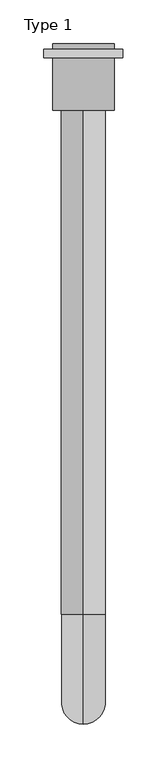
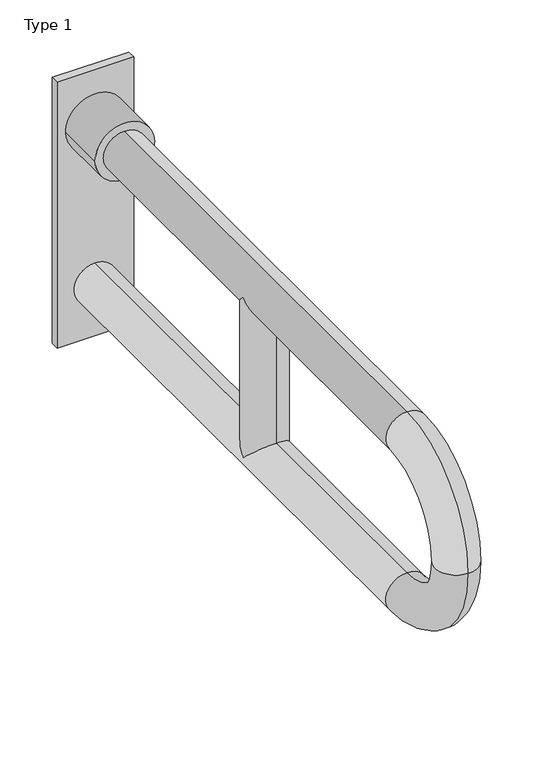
"""IFC4 building model written with IfcOpenShell, lengths in millimetres: proxy geometry, BIMHealth-Grab_Rail_Drop_Down-LOD2A-v1 : Type 1."""

from ifc_helpers import new_model, si_unit, point, frame, frame_2d, origin, place, context, project, spatial, polyline, circle_curve, ellipse_curve, trimmed, segment, composite_curve, outline, extrude, source, transform, mapped, element, save
from ifc_brep_helpers import plane_surface, cylinder_surface, revolved_surface, advanced_brep


def type_1_91922403(model_context):
    return source(origin(), model_context, "Body", "SolidModel", [
        advanced_brep(
        [(125.0, -135.7700007, 655.0), (125.0, -135.7700007, 705.0), (125.0, -70.0, 505.0), (125.0, -70.0, 455.0), (125.0, -710.0, 705.0), (125.0, -710.0, 655.0), (125.0, -445.0, 655.0), (150.0, -420.0, 680.0), (125.0, -395.0, 655.0), (100.0, -420.0, 680.0), (125.0, -835.0, 580.0), (125.0, -785.0, 580.0), (125.0, -710.0, 455.0), (125.0, -710.0, 505.0), (125.0, -395.0, 505.0), (150.0, -420.0, 480.0), (125.0, -445.0, 505.0), (100.0, -420.0, 480.0)],
        [
            (0, 1, circle_curve(frame((125.0, -135.7700007, 680.0), z_axis=(0.0, 1.0, 0.0), x_axis=(0.0, 0.0, 1.0)), 25.0)),
            (1, 0, circle_curve(frame((125.0, -135.7700007, 680.0), z_axis=(0.0, 1.0, 0.0), x_axis=(0.0, 0.0, 1.0)), 25.0)),
            (2, 3, circle_curve(frame((125.0, -70.0, 480.0), z_axis=(0.0, 1.0, 0.0), x_axis=(0.0, 0.0, -1.0)), 25.0)),
            (3, 2, circle_curve(frame((125.0, -70.0, 480.0), z_axis=(0.0, 1.0, 0.0), x_axis=(0.0, 0.0, -1.0)), 25.0)),
            (1, 4),
            (4, 5, circle_curve(frame((125.0, -710.0, 680.0), z_axis=(0.0, 1.0, 0.0), x_axis=(0.0, 0.0, 1.0)), 25.0)),
            (5, 6),
            (6, 7, ellipse_curve(frame((125.0, -420.0, 680.0), z_axis=(0.0, -0.7071067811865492, 0.7071067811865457), x_axis=(0.0, 0.7071067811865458, 0.7071067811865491)), 35.3553391, 25.0)),
            (7, 8, ellipse_curve(frame((125.0, -420.0, 680.0), z_axis=(0.0, 0.7071067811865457, 0.7071067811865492), x_axis=(0.0, 0.7071067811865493, -0.7071067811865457)), 35.3553391, 25.0)),
            (8, 0),
            (8, 9, ellipse_curve(frame((125.0, -420.0, 680.0), z_axis=(0.0, 0.7071067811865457, 0.7071067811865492), x_axis=(0.0, 0.7071067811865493, -0.7071067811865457)), 35.3553391, 25.0)),
            (9, 6, ellipse_curve(frame((125.0, -420.0, 680.0), z_axis=(0.0, -0.7071067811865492, 0.7071067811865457), x_axis=(0.0, 0.7071067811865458, 0.7071067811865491)), 35.3553391, 25.0)),
            (5, 4, circle_curve(frame((125.0, -710.0, 680.0), z_axis=(0.0, 1.0, 0.0), x_axis=(0.0, 0.0, 1.0)), 25.0)),
            (4, 10, circle_curve(frame((125.0, -710.0, 580.0), z_axis=(1.0, 0.0, 0.0), x_axis=(0.0, 0.0, 1.0)), 125.0)),
            (10, 11, circle_curve(frame((125.0, -810.0, 580.0), z_axis=(0.0, 0.0, 1.0), x_axis=(0.0, -1.0, 0.0)), 25.0)),
            (11, 5, circle_curve(frame((125.0, -710.0, 580.0), z_axis=(-1.0, 0.0, 0.0), x_axis=(0.0, 0.0, 1.0)), 75.0)),
            (11, 10, circle_curve(frame((125.0, -810.0, 580.0), z_axis=(0.0, 0.0, 1.0), x_axis=(0.0, -1.0, 0.0)), 25.0)),
            (10, 12, circle_curve(frame((125.0, -710.0, 580.0), z_axis=(1.0, 0.0, 0.0), x_axis=(0.0, -1.0, 0.0)), 125.0)),
            (12, 13, circle_curve(frame((125.0, -710.0, 480.0), z_axis=(0.0, -1.0, 0.0), x_axis=(0.0, 0.0, -1.0)), 25.0)),
            (13, 11, circle_curve(frame((125.0, -710.0, 580.0), z_axis=(-1.0, 0.0, 0.0), x_axis=(0.0, -1.0, 0.0)), 75.0)),
            (13, 12, circle_curve(frame((125.0, -710.0, 480.0), z_axis=(0.0, -1.0, 0.0), x_axis=(0.0, 0.0, -1.0)), 25.0)),
            (2, 14),
            (14, 15, ellipse_curve(frame((125.0, -420.0, 480.0), z_axis=(0.0, 0.7071067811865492, -0.7071067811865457), x_axis=(0.0, -0.7071067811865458, -0.7071067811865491)), 35.3553391, 25.0)),
            (15, 16, ellipse_curve(frame((125.0, -420.0, 480.0), z_axis=(0.0, -0.7071067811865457, -0.7071067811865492), x_axis=(0.0, -0.7071067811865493, 0.7071067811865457)), 35.3553391, 25.0)),
            (16, 13),
            (12, 3),
            (16, 17, ellipse_curve(frame((125.0, -420.0, 480.0), z_axis=(0.0, -0.7071067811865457, -0.7071067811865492), x_axis=(0.0, -0.7071067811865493, 0.7071067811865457)), 35.3553391, 25.0)),
            (17, 14, ellipse_curve(frame((125.0, -420.0, 480.0), z_axis=(0.0, 0.7071067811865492, -0.7071067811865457), x_axis=(0.0, -0.7071067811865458, -0.7071067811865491)), 35.3553391, 25.0)),
            (6, 16),
            (14, 8),
        ],
        [
            plane_surface(frame((125.0, -135.7700007, 680.0), z_axis=(0.0, 1.0, 0.0), x_axis=(1.0, 0.0, 0.0))),
            plane_surface(frame((125.0, -70.0, 480.0), z_axis=(0.0, 1.0, 0.0), x_axis=(1.0, 0.0, 0.0))),
            cylinder_surface(frame((125.0, -135.7700007, 680.0), z_axis=(0.0, 1.0, 0.0), x_axis=(0.0, 0.0, 1.0)), 25.0),
            revolved_surface(trimmed(ellipse_curve(frame((125.0, -710.0, 680.0), z_axis=(0.0, -1.0, 0.0), x_axis=(0.0, 0.0, 1.0)), 25.0, 25.0), [point((125.0, -710.0, 655.0))], [point((125.0, -710.0, 705.0))], True, "CARTESIAN"), (125.0, -710.0, 580.0), (-1.0, 0.0, 0.0)),
            revolved_surface(trimmed(ellipse_curve(frame((125.0, -710.0, 680.0), z_axis=(0.0, -1.0, 0.0), x_axis=(0.0, 0.0, 1.0)), 25.0, 25.0), [point((125.0, -710.0, 705.0))], [point((125.0, -710.0, 655.0))], True, "CARTESIAN"), (125.0, -710.0, 580.0), (-1.0, 0.0, 0.0)),
            revolved_surface(trimmed(ellipse_curve(frame((125.0, -810.0, 580.0), z_axis=(0.0, 0.0, -1.0), x_axis=(0.0, -1.0, 0.0)), 25.0, 25.0), [point((125.0, -785.0, 580.0))], [point((125.0, -835.0, 580.0))], True, "CARTESIAN"), (125.0, -710.0, 580.0), (-1.0, 0.0, 0.0)),
            revolved_surface(trimmed(ellipse_curve(frame((125.0, -810.0, 580.0), z_axis=(0.0, 0.0, -1.0), x_axis=(0.0, -1.0, 0.0)), 25.0, 25.0), [point((125.0, -835.0, 580.0))], [point((125.0, -785.0, 580.0))], True, "CARTESIAN"), (125.0, -710.0, 580.0), (-1.0, 0.0, 0.0)),
            cylinder_surface(frame((125.0, -710.0, 480.0), z_axis=(0.0, -1.0, 0.0), x_axis=(0.0, 0.0, -1.0)), 25.0),
            cylinder_surface(frame((125.0, -420.0, 480.0), z_axis=(0.0, 0.0, -1.0), x_axis=(0.0, 1.0, 0.0)), 25.0),
        ],
        [
            (0, [[1, 2]]),
            (1, [[3, 4]]),
            (2, [[5, 6, 7, 8, 9, 10, -2]]),
            (2, [[-10, 11, 12, -7, 13, -5, -1]]),
            (3, [[14, 15, 16, -6]]),
            (4, [[-16, 17, -14, -13]]),
            (5, [[18, 19, 20, -15]]),
            (6, [[-20, 21, -18, -17]]),
            (7, [[22, 23, 24, 25, -19, 26, -3]]),
            (7, [[-26, -21, -25, 27, 28, -22, -4]]),
            (8, [[-9, -8, 29, -24, -23, 30]]),
            (8, [[-28, -27, -29, -12, -11, -30]]),
        ],
    ),
        extrude(outline(composite_curve([segment(trimmed(circle_curve(frame_2d((680.0, 125.0)), 35.0), [point((680.0, 160.0))], [point((680.0, 90.0))], False, "CARTESIAN"), True, "CONTINUOUS"), segment(trimmed(circle_curve(frame_2d((680.0, 125.0)), 35.0), [point((680.0, 90.0))], [point((680.0, 160.0))], False, "CARTESIAN"), True, "CONTINUOUS")], self_intersect=False)), frame((0.0, -135.7700007, 0.0), z_axis=(0.0, 1.0, 0.0), x_axis=(0.0, 0.0, 1.0)), (0.0, 0.0, 1.0), 75.7700007),
        extrude(outline(composite_curve([segment(trimmed(circle_curve(frame_2d((480.0, 125.0)), 35.0), [point((480.0, 160.0))], [point((480.0, 90.0))], False, "CARTESIAN"), True, "CONTINUOUS"), segment(trimmed(circle_curve(frame_2d((480.0, 125.0)), 35.0), [point((480.0, 90.0))], [point((480.0, 160.0))], False, "CARTESIAN"), True, "CONTINUOUS")], self_intersect=False)), frame((0.0, -70.0, 0.0), z_axis=(0.0, 1.0, 0.0), x_axis=(0.0, 0.0, 1.0)), (0.0, 0.0, 1.0), 10.0),
        extrude(outline(polyline([(170.0, -66.0), (170.0, -76.0), (80.0, -76.0), (80.0, -66.0), (170.0, -66.0)])), frame((0.0, 0.0, 415.0), z_axis=(0.0, 0.0, 1.0), x_axis=(1.0, 0.0, 0.0)), (0.0, 0.0, 1.0), 330.0),
    ])


if __name__ == "__main__":
    model = new_model("IFC4")
    model_context = context("Model", 3, world=origin())
    ifc_project = project(units=[si_unit("LENGTHUNIT", "METRE", prefix="MILLI")], contexts=[model_context])
    site = spatial("IfcSite", under=ifc_project)
    building = spatial("IfcBuilding", under=site)
    placement = place(None, origin())
    type_1_shape = type_1_91922403(model_context)
    element("IfcBuildingElementProxy", 1, Name="BIMHealth-Grab_Rail_Drop_Down-LOD2A-v1 : Type 1", ObjectType="BIMHealth-Grab_Rail_Drop_Down-LOD2A-v1 : Type 1", at=placement, inside=building, context=model_context, shape_type="MappedRepresentation", body=[
        mapped(type_1_shape, transform((0.0, 0.0, 0.0), x_axis=(1.0, 0.0, 0.0), y_axis=(0.0, 1.0, 0.0), z_axis=(0.0, 0.0, 1.0))),
    ])
    save(model, "model.ifc")
